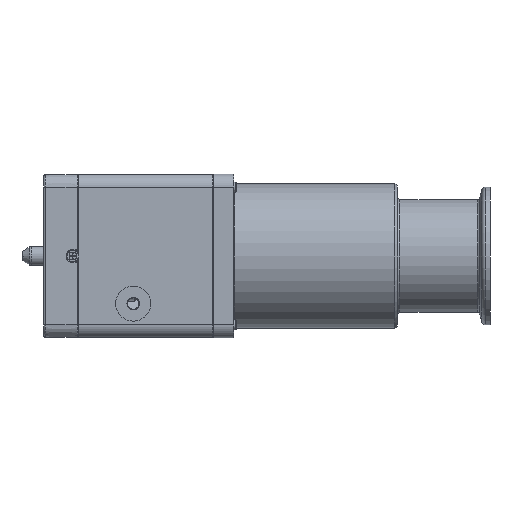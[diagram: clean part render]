
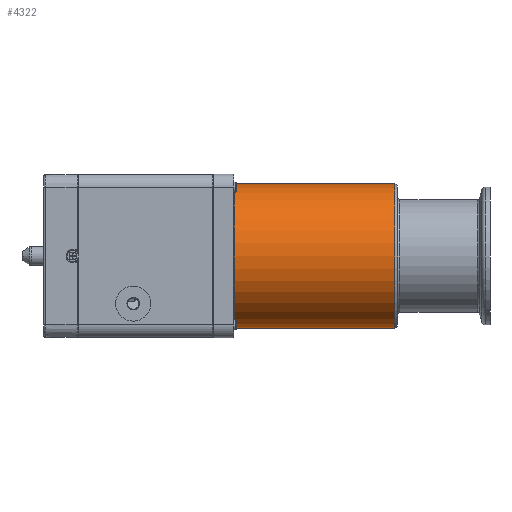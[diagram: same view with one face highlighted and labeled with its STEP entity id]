
A CAD part, left-side view. The second image highlights one B-rep face of the part: STEP entity #4322.
In plain terms, the highlighted cylindrical face has radius 28.95 mm (diameter 57.9 mm), a full revolution.
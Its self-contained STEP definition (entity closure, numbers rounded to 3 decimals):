
#1595=B_SPLINE_CURVE_WITH_KNOTS('',3,(#14771,#14772,#14773,#14774,#14775,
#14776,#14777,#14778,#14779,#14780,#14781,#14782,#14783,#14784,#14785,#14786,
#14787,#14788,#14789,#14790,#14791,#14792,#14793,#14794,#14795,#14796,#14797,
#14798,#14799,#14800,#14801,#14802,#14803,#14804),.UNSPECIFIED.,.T.,.F.,
(2,2,2,2,2,2,2,2,2,2,2,2,2,2,2,2,2,2,2),(-0.062,0.,0.063,
0.125,0.188,0.25,0.313,0.375,0.438,
0.5,0.563,0.625,0.688,
0.75,0.813,0.875,0.938,1.,1.063),.UNSPECIFIED.);
#3696=CYLINDRICAL_SURFACE('',#11151,28.95);
#3888=FACE_BOUND('',#5564,.T.);
#3889=FACE_BOUND('',#5565,.T.);
#3890=FACE_BOUND('',#5566,.T.);
#4322=ADVANCED_FACE('',(#3888,#3889,#3890),#3696,.T.);
#5564=EDGE_LOOP('',(#6413));
#5565=EDGE_LOOP('',(#6414));
#5566=EDGE_LOOP('',(#6415));
#6413=ORIENTED_EDGE('',*,*,#9574,.T.);
#6414=ORIENTED_EDGE('',*,*,#9575,.T.);
#6415=ORIENTED_EDGE('',*,*,#9576,.T.);
#8701=VERTEX_POINT('',#14768);
#8702=VERTEX_POINT('',#14770);
#8703=VERTEX_POINT('',#14805);
#9574=EDGE_CURVE('',#8701,#8701,#10724,.T.);
#9575=EDGE_CURVE('',#8702,#8702,#10725,.T.);
#9576=EDGE_CURVE('',#8703,#8703,#1595,.T.);
#10724=CIRCLE('',#11149,28.95);
#10725=CIRCLE('',#11150,28.95);
#11149=AXIS2_PLACEMENT_3D('',#14767,#12188,#12189);
#11150=AXIS2_PLACEMENT_3D('',#14769,#12190,#12191);
#11151=AXIS2_PLACEMENT_3D('',#14806,#12192,#12193);
#12188=DIRECTION('',(1.,0.,0.));
#12189=DIRECTION('',(0.,0.,-1.));
#12190=DIRECTION('',(-1.,0.,0.));
#12191=DIRECTION('',(0.,0.,1.));
#12192=DIRECTION('',(-1.,0.,0.));
#12193=DIRECTION('',(0.,0.,1.));
#14767=CARTESIAN_POINT('',(38.,0.,0.));
#14768=CARTESIAN_POINT('',(38.,0.,-28.95));
#14769=CARTESIAN_POINT('',(102.,0.,0.));
#14770=CARTESIAN_POINT('',(102.,0.,28.95));
#14771=CARTESIAN_POINT('',(62.251,20.931,-20.));
#14772=CARTESIAN_POINT('',(67.749,20.931,-20.));
#14773=CARTESIAN_POINT('',(70.403,21.502,-19.429));
#14774=CARTESIAN_POINT('',(75.162,23.16,-17.419));
#14775=CARTESIAN_POINT('',(77.283,24.223,-15.984));
#14776=CARTESIAN_POINT('',(80.867,26.223,-12.433));
#14777=CARTESIAN_POINT('',(82.339,27.168,-10.307));
#14778=CARTESIAN_POINT('',(84.409,28.534,-5.493));
#14779=CARTESIAN_POINT('',(84.993,28.945,-2.776));
#14780=CARTESIAN_POINT('',(85.007,28.955,2.679));
#14781=CARTESIAN_POINT('',(84.44,28.556,5.383));
#14782=CARTESIAN_POINT('',(82.389,27.201,10.224));
#14783=CARTESIAN_POINT('',(80.917,26.253,12.374));
#14784=CARTESIAN_POINT('',(77.316,24.24,15.961));
#14785=CARTESIAN_POINT('',(75.229,23.188,17.383));
#14786=CARTESIAN_POINT('',(70.435,21.508,19.423));
#14787=CARTESIAN_POINT('',(67.745,20.937,19.994));
#14788=CARTESIAN_POINT('',(62.345,20.925,20.006));
#14789=CARTESIAN_POINT('',(59.633,21.491,19.442));
#14790=CARTESIAN_POINT('',(54.831,23.161,17.418));
#14791=CARTESIAN_POINT('',(52.729,24.217,15.994));
#14792=CARTESIAN_POINT('',(49.135,26.222,12.438));
#14793=CARTESIAN_POINT('',(47.654,27.173,10.296));
#14794=CARTESIAN_POINT('',(45.584,28.539,5.47));
#14795=CARTESIAN_POINT('',(45.006,28.946,2.756));
#14796=CARTESIAN_POINT('',(44.994,28.954,-2.662));
#14797=CARTESIAN_POINT('',(45.558,28.557,-5.386));
#14798=CARTESIAN_POINT('',(47.631,27.188,-10.263));
#14799=CARTESIAN_POINT('',(49.113,26.235,-12.409));
#14800=CARTESIAN_POINT('',(52.694,24.235,-15.967));
#14801=CARTESIAN_POINT('',(54.825,23.168,-17.409));
#14802=CARTESIAN_POINT('',(59.552,21.514,-19.414));
#14803=CARTESIAN_POINT('',(62.251,20.931,-20.));
#14804=CARTESIAN_POINT('',(67.749,20.931,-20.));
#14805=CARTESIAN_POINT('',(65.,20.931,-20.));
#14806=CARTESIAN_POINT('',(0.,0.,0.));
